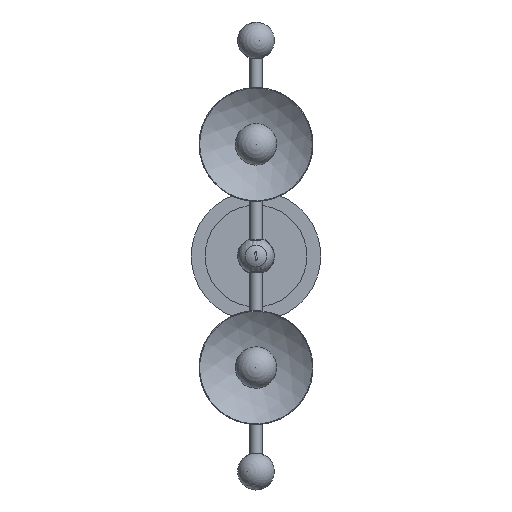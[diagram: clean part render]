
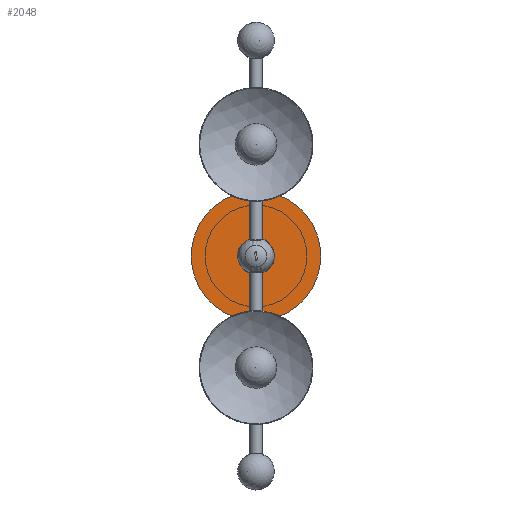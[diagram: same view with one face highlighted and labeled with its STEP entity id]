
A CAD part, front view. The second image highlights one B-rep face of the part: STEP entity #2048.
In plain terms, the highlighted planar face has unit normal (0, -1, 0).
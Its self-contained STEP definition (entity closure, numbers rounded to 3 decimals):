
#277=FACE_BOUND('',#550,.T.);
#378=FACE_OUTER_BOUND('',#549,.T.);
#549=EDGE_LOOP('',(#1550));
#550=EDGE_LOOP('',(#1551));
#733=CIRCLE('',#2303,17.5);
#743=CIRCLE('',#2320,70.);
#916=VERTEX_POINT('',#3722);
#926=VERTEX_POINT('',#3752);
#1140=EDGE_CURVE('',#916,#916,#733,.T.);
#1152=EDGE_CURVE('',#926,#926,#743,.T.);
#1550=ORIENTED_EDGE('',*,*,#1152,.T.);
#1551=ORIENTED_EDGE('',*,*,#1140,.T.);
#1806=PLANE('',#2319);
#2048=ADVANCED_FACE('',(#378,#277),#1806,.T.);
#2303=AXIS2_PLACEMENT_3D('',#3724,#2822,#2823);
#2319=AXIS2_PLACEMENT_3D('',#3751,#2856,#2857);
#2320=AXIS2_PLACEMENT_3D('',#3753,#2858,#2859);
#2822=DIRECTION('center_axis',(0.,1.,0.));
#2823=DIRECTION('ref_axis',(1.,0.,0.));
#2856=DIRECTION('center_axis',(0.,-1.,0.));
#2857=DIRECTION('ref_axis',(0.,0.,-1.));
#2858=DIRECTION('center_axis',(0.,-1.,0.));
#2859=DIRECTION('ref_axis',(1.,0.,0.));
#3722=CARTESIAN_POINT('',(-43.248,20.06,0.));
#3724=CARTESIAN_POINT('Origin',(-25.748,20.06,0.));
#3751=CARTESIAN_POINT('Origin',(-25.748,20.06,0.));
#3752=CARTESIAN_POINT('',(-95.748,20.06,0.));
#3753=CARTESIAN_POINT('Origin',(-25.748,20.06,0.));
